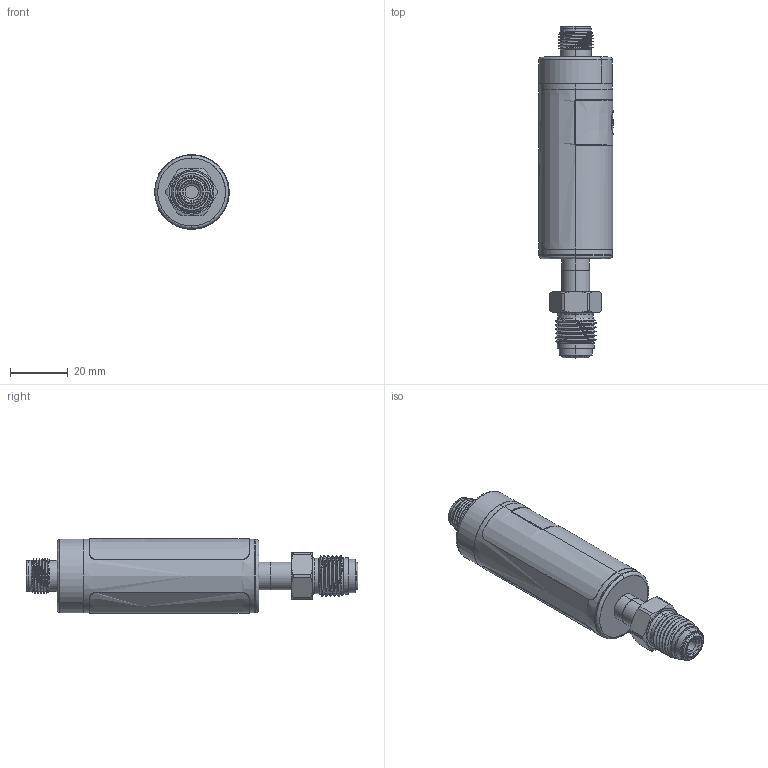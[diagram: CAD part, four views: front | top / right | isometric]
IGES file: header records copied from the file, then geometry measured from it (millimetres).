
Start section: SolidWorks IGES file using analytic representation for surfaces
Global section: file name: R:\Brooks Instrument\25-0024 SSII CAD File Generation\Client Files\SSII CAD Models for Website\CAD for Brooks Website\Example\GSD\GSD-XXXXXX-Q-XXX-SM\IGES\GSD-XXXXXX-Q-XXX-SM.IGS; native system: SolidWorks 2023; preprocessor: SolidWorks 2023; author: CYatsko; date: 250625.122823; units: inch
Bounding box: 25.65 x 114.54 x 25.76 mm (x, y, z)
Surface area: 16900.1 mm2 (no closed solid volume)
Topology: 0 solids, 0 shells, 271 faces, 3928 edges, 3920 vertices
Faces by surface type: bspline 136, revolution 135
